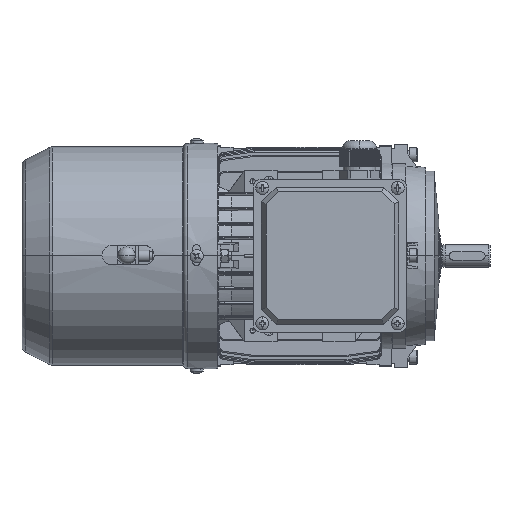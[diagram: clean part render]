
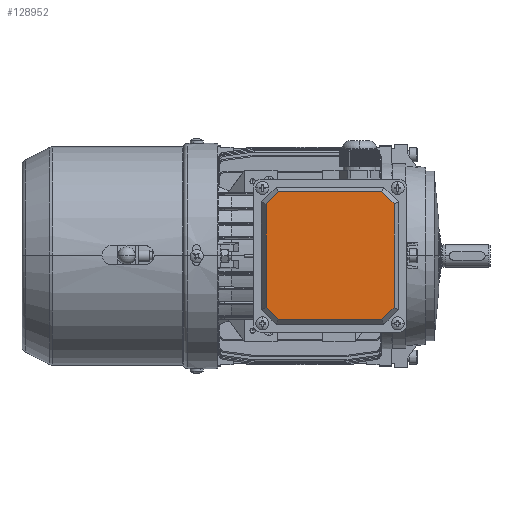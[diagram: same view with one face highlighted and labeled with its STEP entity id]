
A CAD part, top view. The second image highlights one B-rep face of the part: STEP entity #128952.
In plain terms, the highlighted planar face has unit normal (0, 0, 1).
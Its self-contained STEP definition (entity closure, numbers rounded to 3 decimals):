
#21 = ORIENTED_EDGE ( 'NONE', *, *, #106833, .T. ) ;
#1120 = CARTESIAN_POINT ( 'NONE',  ( -39.578, -38.819, 109.794 ) ) ;
#2060 = VECTOR ( 'NONE', #115160, 1000. ) ;
#9304 = ORIENTED_EDGE ( 'NONE', *, *, #17552, .T. ) ;
#10061 = LINE ( 'NONE', #1120, #100015 ) ;
#11321 = AXIS2_PLACEMENT_3D ( 'NONE', #43330, #130966, #17395 ) ;
#14082 = LINE ( 'NONE', #112870, #37353 ) ;
#14676 = CARTESIAN_POINT ( 'NONE',  ( 30.691, 34.221, 109.794 ) ) ;
#15682 = CARTESIAN_POINT ( 'NONE',  ( 31.503, -29.819, 109.794 ) ) ;
#17395 = DIRECTION ( 'NONE',  ( 0., -1., 0. ) ) ;
#17552 = EDGE_CURVE ( 'NONE', #23534, #93789, #27097, .T. ) ;
#21960 = VERTEX_POINT ( 'NONE', #122707 ) ;
#23534 = VERTEX_POINT ( 'NONE', #129151 ) ;
#23826 = EDGE_CURVE ( 'NONE', #141340, #126217, #126048, .T. ) ;
#26772 = VECTOR ( 'NONE', #80331, 1000. ) ;
#27097 = LINE ( 'NONE', #50830, #61792 ) ;
#28487 = CARTESIAN_POINT ( 'NONE',  ( -47.766, 34.221, 109.794 ) ) ;
#28593 = CARTESIAN_POINT ( 'NONE',  ( 30.691, -30.631, 109.794 ) ) ;
#34312 = ORIENTED_EDGE ( 'NONE', *, *, #66258, .T. ) ;
#35099 = VERTEX_POINT ( 'NONE', #102755 ) ;
#37353 = VECTOR ( 'NONE', #126186, 1000. ) ;
#37549 = VECTOR ( 'NONE', #139382, 1000. ) ;
#40409 = FACE_OUTER_BOUND ( 'NONE', #100511, .T. ) ;
#43330 = CARTESIAN_POINT ( 'NONE',  ( 33.462, -40.779, 109.794 ) ) ;
#46369 = DIRECTION ( 'NONE',  ( 0.707, -0.707, 0. ) ) ;
#49100 = LINE ( 'NONE', #15682, #26772 ) ;
#49599 = ORIENTED_EDGE ( 'NONE', *, *, #93010, .T. ) ;
#50830 = CARTESIAN_POINT ( 'NONE',  ( -39.578, 41.262, 109.794 ) ) ;
#60166 = CARTESIAN_POINT ( 'NONE',  ( 31.503, 32.262, 109.794 ) ) ;
#61792 = VECTOR ( 'NONE', #86410, 1000. ) ;
#64062 = LINE ( 'NONE', #28487, #104008 ) ;
#66258 = EDGE_CURVE ( 'NONE', #92545, #120976, #10061, .T. ) ;
#69505 = EDGE_CURVE ( 'NONE', #35099, #23534, #14082, .T. ) ;
#70723 = ORIENTED_EDGE ( 'NONE', *, *, #90560, .T. ) ;
#73755 = DIRECTION ( 'NONE',  ( 0., -1., 0. ) ) ;
#74540 = PLANE ( 'NONE',  #11321 ) ;
#76552 = VECTOR ( 'NONE', #144783, 1000. ) ;
#77966 = LINE ( 'NONE', #98771, #76552 ) ;
#80273 = LINE ( 'NONE', #60166, #2060 ) ;
#80331 = DIRECTION ( 'NONE',  ( 0.707, 0.707, 0. ) ) ;
#85784 = CARTESIAN_POINT ( 'NONE',  ( -47.766, -30.631, 109.794 ) ) ;
#86410 = DIRECTION ( 'NONE',  ( -0.707, -0.707, 0. ) ) ;
#90560 = EDGE_CURVE ( 'NONE', #126217, #35099, #80273, .T. ) ;
#92545 = VERTEX_POINT ( 'NONE', #85784 ) ;
#93010 = EDGE_CURVE ( 'NONE', #93789, #92545, #64062, .T. ) ;
#93789 = VERTEX_POINT ( 'NONE', #102112 ) ;
#98771 = CARTESIAN_POINT ( 'NONE',  ( 24.462, -38.007, 109.794 ) ) ;
#98957 = CARTESIAN_POINT ( 'NONE',  ( -40.39, -38.007, 109.794 ) ) ;
#100015 = VECTOR ( 'NONE', #46369, 1000. ) ;
#100511 = EDGE_LOOP ( 'NONE', ( #110010, #125073, #70723, #102766, #9304, #49599, #34312, #21 ) ) ;
#102112 = CARTESIAN_POINT ( 'NONE',  ( -47.766, 33.073, 109.794 ) ) ;
#102755 = CARTESIAN_POINT ( 'NONE',  ( 23.315, 40.45, 109.794 ) ) ;
#102766 = ORIENTED_EDGE ( 'NONE', *, *, #69505, .T. ) ;
#104008 = VECTOR ( 'NONE', #73755, 1000. ) ;
#106529 = EDGE_CURVE ( 'NONE', #21960, #141340, #49100, .T. ) ;
#106833 = EDGE_CURVE ( 'NONE', #120976, #21960, #77966, .T. ) ;
#107730 = CARTESIAN_POINT ( 'NONE',  ( 30.691, 33.073, 109.794 ) ) ;
#110010 = ORIENTED_EDGE ( 'NONE', *, *, #106529, .T. ) ;
#112870 = CARTESIAN_POINT ( 'NONE',  ( 24.462, 40.45, 109.794 ) ) ;
#115160 = DIRECTION ( 'NONE',  ( -0.707, 0.707, 0. ) ) ;
#120976 = VERTEX_POINT ( 'NONE', #98957 ) ;
#122707 = CARTESIAN_POINT ( 'NONE',  ( 23.315, -38.007, 109.794 ) ) ;
#125073 = ORIENTED_EDGE ( 'NONE', *, *, #23826, .T. ) ;
#126048 = LINE ( 'NONE', #14676, #37549 ) ;
#126186 = DIRECTION ( 'NONE',  ( -1., 0., 0. ) ) ;
#126217 = VERTEX_POINT ( 'NONE', #107730 ) ;
#128952 = ADVANCED_FACE ( 'NONE', ( #40409 ), #74540, .F. ) ;
#129151 = CARTESIAN_POINT ( 'NONE',  ( -40.39, 40.45, 109.794 ) ) ;
#130966 = DIRECTION ( 'NONE',  ( 0., 0., -1. ) ) ;
#139382 = DIRECTION ( 'NONE',  ( 0., 1., 0. ) ) ;
#141340 = VERTEX_POINT ( 'NONE', #28593 ) ;
#144783 = DIRECTION ( 'NONE',  ( 1., 0., 0. ) ) ;
